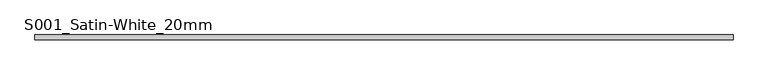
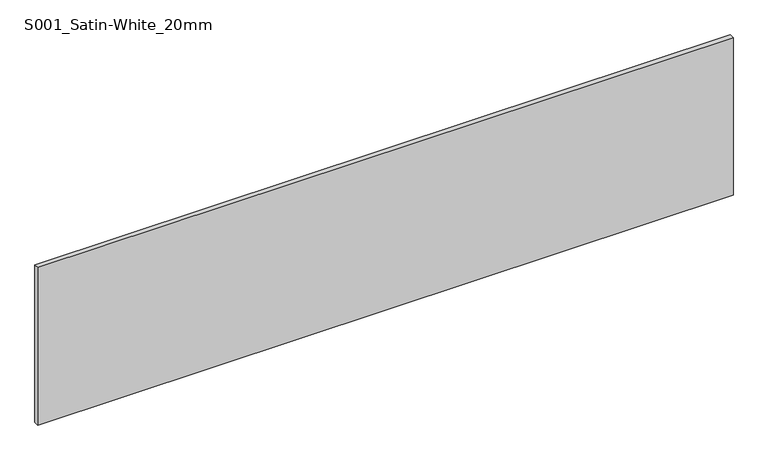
"""IFC4 building model written with IfcOpenShell, lengths in millimetres: plate geometry, Curtain-Panels_Outdoor-Material_HI-MACS_Solids : S001_Satin-White_20mm."""

from ifc_helpers import new_model, si_unit, origin, origin_with_axes, place, context, project, spatial, polyline, outline, extrude, source, transform, mapped, element, save


def s001_satin_white_20mm_31d56001(model_context):
    return source(origin(), model_context, "Body", "SweptSolid", [
        extrude(outline(polyline([(1500.0, 10.0), (1500.0, -10.0), (-1500.0, -10.0), (-1500.0, 10.0), (1500.0, 10.0)])), origin_with_axes(), (0.0, 0.0, 1.0), 719.0183971),
    ])


if __name__ == "__main__":
    model = new_model("IFC4")
    model_context = context("Model", 3, world=origin())
    ifc_project = project(units=[si_unit("LENGTHUNIT", "METRE", prefix="MILLI")], contexts=[model_context])
    site = spatial("IfcSite", under=ifc_project)
    building = spatial("IfcBuilding", under=site)
    placement = place(None, origin())
    s001_satin_white_20mm_shape = s001_satin_white_20mm_31d56001(model_context)
    element("IfcPlate", 1, ObjectType="Curtain-Panels_Outdoor-Material_HI-MACS_Solids : S001_Satin-White_20mm", at=placement, inside=building, context=model_context, shape_type="MappedRepresentation", body=[
        mapped(s001_satin_white_20mm_shape, transform((0.0, 0.0, 0.0), x_axis=(1.0, 0.0, 0.0), y_axis=(0.0, 1.0, 0.0), z_axis=(0.0, 0.0, 1.0))),
    ])
    save(model, "model.ifc")
